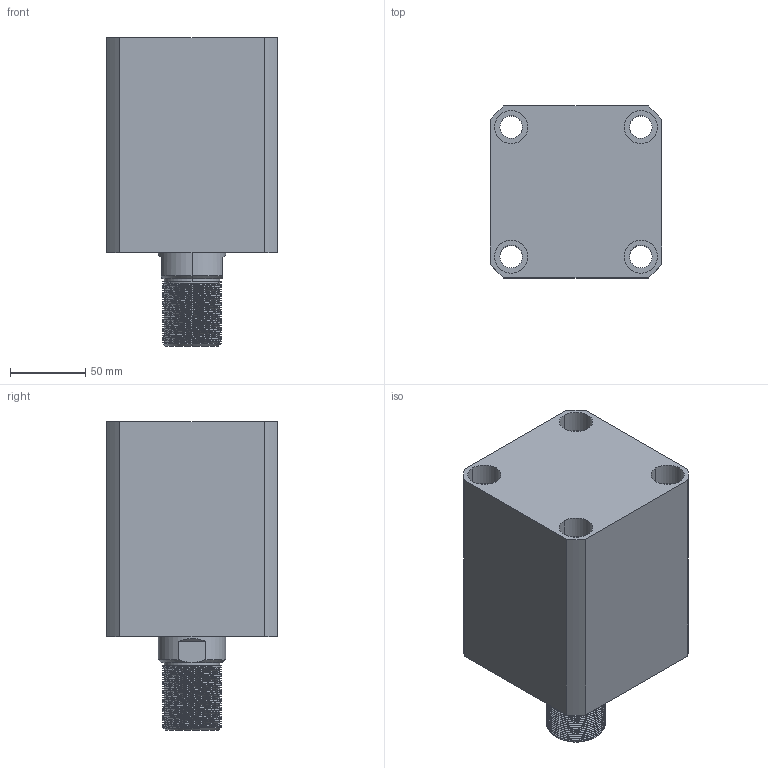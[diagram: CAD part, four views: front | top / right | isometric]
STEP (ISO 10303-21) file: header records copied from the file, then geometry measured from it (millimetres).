
FILE_DESCRIPTION (( 'STEP AP214' ), '1' );
FILE_NAME ('chtb-sdma80x65wasm.STEP', '2018-05-29T03:21:03', ( 'Windows' ), ( 'Microsoft' ), 'SwSTEP 2.0', 'SolidWorks 2015', '' );
FILE_SCHEMA (( 'AUTOMOTIVE_DESIGN' ));
Length unit declared in the file: millimetre
Products named in the file (4): CHTB-SDMA80X65NBT; CHTB-SD80X65WHSG; CHTB-SD80QG; chtb-sdma80x65wasm
Assembly tree (3 placements, depth 2):
  chtb-sdma80x65wasm
    CHTB-SD80QG
    CHTB-SD80X65WHSG
    CHTB-SDMA80X65NBT
Bounding box: 114 x 114 x 205 mm (x, y, z)
Volume: 1544837.4 mm3; surface area: 223786.5 mm2
Topology: 3 solids, 3 shells, 251 faces, 695 edges, 466 vertices
Faces by surface type: cylinder 163, plane 38, torus 18, bspline 16, cone 16
Entity records: 20277 total; most frequent: CARTESIAN_POINT 14301, ORIENTED_EDGE 1382, DIRECTION 1068, EDGE_CURVE 691, VERTEX_POINT 466, AXIS2_PLACEMENT_3D 433, EDGE_LOOP 289, FACE_OUTER_BOUND 251
